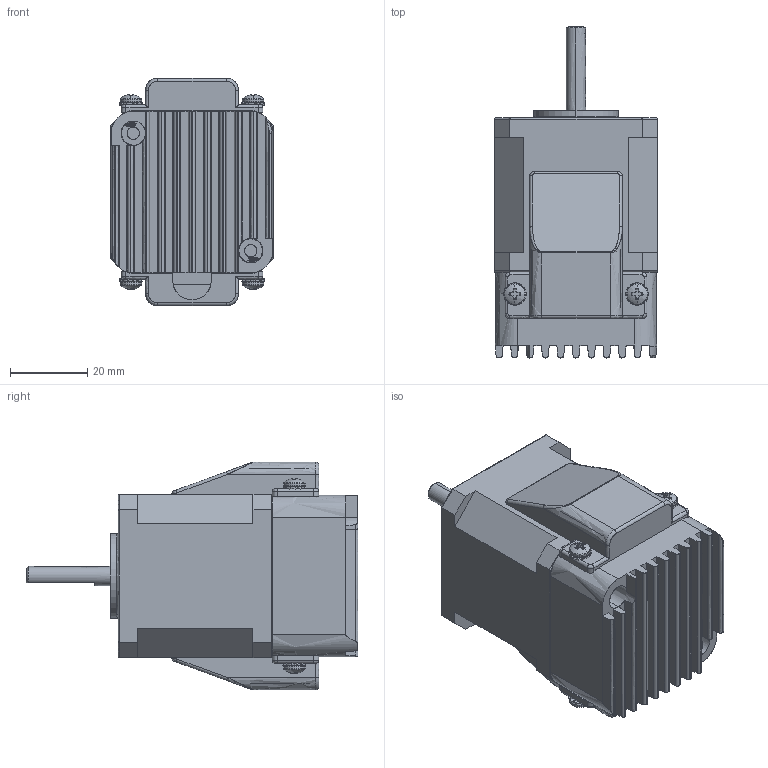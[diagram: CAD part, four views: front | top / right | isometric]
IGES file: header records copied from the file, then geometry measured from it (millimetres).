
Start section: SolidWorks IGES file using analytic representation for surfaces
Global section: file name: C:\Users\IEUser\Documents\Christine folder\Arcus\Project #23 DMX Drawings\DMX-K-DRV-17\DMX-K-DRV-17-2.IGS; native system: SolidWorks 2008; preprocessor: SolidWorks 2008; author: IEUser; date: 140219.211042; units: millimetre
Bounding box: 42.3 x 86.11 x 59.06 mm (x, y, z)
Surface area: 30605.2 mm2 (no closed solid volume)
Topology: 0 solids, 0 shells, 1620 faces, 15114 edges, 15002 vertices
Faces by surface type: bspline 1131, revolution 489
